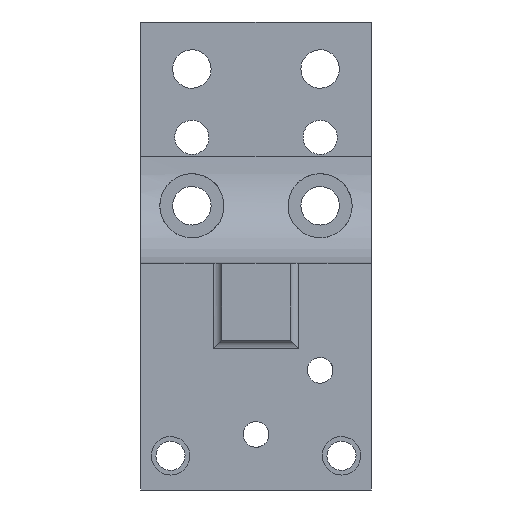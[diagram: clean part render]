
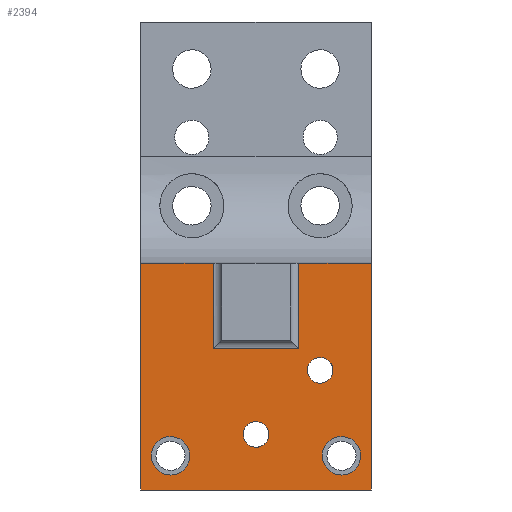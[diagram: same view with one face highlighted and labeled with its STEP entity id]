
A CAD part, front view. The second image highlights one B-rep face of the part: STEP entity #2394.
In plain terms, the highlighted planar face has unit normal (0, -1, 0).
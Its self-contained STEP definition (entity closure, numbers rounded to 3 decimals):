
#1119=CARTESIAN_POINT('Vertex',(16.051,-18.,-17.843)) ;
#1122=CARTESIAN_POINT('Axis2P3D Location',(20.,-18.,-20.)) ;
#1126=CARTESIAN_POINT('Vertex',(23.949,-18.,-22.157)) ;
#1141=CARTESIAN_POINT('Axis2P3D Location',(20.,-18.,-20.)) ;
#1326=CARTESIAN_POINT('Vertex',(-2.633,-18.,-13.562)) ;
#1329=CARTESIAN_POINT('Axis2P3D Location',(0.,-18.,-15.)) ;
#1333=CARTESIAN_POINT('Vertex',(2.633,-18.,-16.438)) ;
#1367=CARTESIAN_POINT('Axis2P3D Location',(0.,-18.,-15.)) ;
#1407=CARTESIAN_POINT('Vertex',(-23.949,-18.,-17.843)) ;
#1410=CARTESIAN_POINT('Axis2P3D Location',(-20.,-18.,-20.)) ;
#1414=CARTESIAN_POINT('Vertex',(-16.051,-18.,-22.157)) ;
#1436=CARTESIAN_POINT('Axis2P3D Location',(-20.,-18.,-20.)) ;
#1670=CARTESIAN_POINT('Vertex',(12.367,-18.,1.438)) ;
#1673=CARTESIAN_POINT('Axis2P3D Location',(15.,-18.,0.)) ;
#1677=CARTESIAN_POINT('Vertex',(17.633,-18.,-1.438)) ;
#1692=CARTESIAN_POINT('Axis2P3D Location',(15.,-18.,0.)) ;
#1920=CARTESIAN_POINT('Vertex',(27.,-18.,-28.)) ;
#1923=CARTESIAN_POINT('Line Origine',(0.,-18.,-28.)) ;
#1927=CARTESIAN_POINT('Vertex',(-27.,-18.,-28.)) ;
#2230=CARTESIAN_POINT('Vertex',(10.,-18.,5.)) ;
#2233=CARTESIAN_POINT('Line Origine',(10.,-18.,-1.5)) ;
#2237=CARTESIAN_POINT('Vertex',(10.,-18.,25.)) ;
#2264=CARTESIAN_POINT('Line Origine',(18.5,-18.,25.)) ;
#2268=CARTESIAN_POINT('Vertex',(27.,-18.,25.)) ;
#2280=CARTESIAN_POINT('Vertex',(-27.,-18.,25.)) ;
#2283=CARTESIAN_POINT('Line Origine',(-18.5,-18.,25.)) ;
#2287=CARTESIAN_POINT('Vertex',(-10.,-18.,25.)) ;
#2341=CARTESIAN_POINT('Axis2P3D Location',(0.,-18.,-28.)) ;
#2346=CARTESIAN_POINT('Line Origine',(0.,-18.,5.)) ;
#2350=CARTESIAN_POINT('Vertex',(-10.,-18.,5.)) ;
#2353=CARTESIAN_POINT('Line Origine',(-10.,-18.,15.)) ;
#2358=CARTESIAN_POINT('Line Origine',(-27.,-18.,-1.5)) ;
#2363=CARTESIAN_POINT('Line Origine',(27.,-18.,-1.5)) ;
#1123=DIRECTION('Axis2P3D Direction',(-0.,1.,0.)) ;
#1142=DIRECTION('Axis2P3D Direction',(-0.,1.,0.)) ;
#1330=DIRECTION('Axis2P3D Direction',(-0.,1.,0.)) ;
#1368=DIRECTION('Axis2P3D Direction',(-0.,1.,0.)) ;
#1411=DIRECTION('Axis2P3D Direction',(-0.,1.,0.)) ;
#1437=DIRECTION('Axis2P3D Direction',(-0.,1.,0.)) ;
#1674=DIRECTION('Axis2P3D Direction',(-0.,1.,0.)) ;
#1693=DIRECTION('Axis2P3D Direction',(-0.,1.,0.)) ;
#1924=DIRECTION('Vector Direction',(1.,0.,0.)) ;
#2234=DIRECTION('Vector Direction',(0.,0.,-1.)) ;
#2265=DIRECTION('Vector Direction',(-1.,0.,0.)) ;
#2284=DIRECTION('Vector Direction',(-1.,0.,0.)) ;
#2342=DIRECTION('Axis2P3D Direction',(0.,1.,0.)) ;
#2343=DIRECTION('Axis2P3D XDirection',(0.,0.,1.)) ;
#2347=DIRECTION('Vector Direction',(1.,0.,0.)) ;
#2354=DIRECTION('Vector Direction',(0.,0.,1.)) ;
#2359=DIRECTION('Vector Direction',(0.,0.,-1.)) ;
#2364=DIRECTION('Vector Direction',(0.,0.,1.)) ;
#1124=AXIS2_PLACEMENT_3D('Circle Axis2P3D',#1122,#1123,$) ;
#1143=AXIS2_PLACEMENT_3D('Circle Axis2P3D',#1141,#1142,$) ;
#1331=AXIS2_PLACEMENT_3D('Circle Axis2P3D',#1329,#1330,$) ;
#1369=AXIS2_PLACEMENT_3D('Circle Axis2P3D',#1367,#1368,$) ;
#1412=AXIS2_PLACEMENT_3D('Circle Axis2P3D',#1410,#1411,$) ;
#1438=AXIS2_PLACEMENT_3D('Circle Axis2P3D',#1436,#1437,$) ;
#1675=AXIS2_PLACEMENT_3D('Circle Axis2P3D',#1673,#1674,$) ;
#1694=AXIS2_PLACEMENT_3D('Circle Axis2P3D',#1692,#1693,$) ;
#2344=AXIS2_PLACEMENT_3D('Plane Axis2P3D',#2341,#2342,#2343) ;
#2369=ORIENTED_EDGE('',*,*,#2352,.T.) ;
#2370=ORIENTED_EDGE('',*,*,#2357,.F.) ;
#2371=ORIENTED_EDGE('',*,*,#2289,.T.) ;
#2372=ORIENTED_EDGE('',*,*,#2362,.T.) ;
#2373=ORIENTED_EDGE('',*,*,#1929,.T.) ;
#2374=ORIENTED_EDGE('',*,*,#2367,.T.) ;
#2375=ORIENTED_EDGE('',*,*,#2270,.T.) ;
#2376=ORIENTED_EDGE('',*,*,#2239,.F.) ;
#2379=ORIENTED_EDGE('',*,*,#1696,.T.) ;
#2380=ORIENTED_EDGE('',*,*,#1679,.T.) ;
#2383=ORIENTED_EDGE('',*,*,#1371,.T.) ;
#2384=ORIENTED_EDGE('',*,*,#1335,.T.) ;
#2387=ORIENTED_EDGE('',*,*,#1440,.T.) ;
#2388=ORIENTED_EDGE('',*,*,#1416,.T.) ;
#2391=ORIENTED_EDGE('',*,*,#1145,.T.) ;
#2392=ORIENTED_EDGE('',*,*,#1128,.T.) ;
#2381=FACE_BOUND('',#2378,.T.) ;
#2385=FACE_BOUND('',#2382,.T.) ;
#2389=FACE_BOUND('',#2386,.T.) ;
#2393=FACE_BOUND('',#2390,.T.) ;
#1925=VECTOR('Line Direction',#1924,1.) ;
#2235=VECTOR('Line Direction',#2234,1.) ;
#2266=VECTOR('Line Direction',#2265,1.) ;
#2285=VECTOR('Line Direction',#2284,1.) ;
#2348=VECTOR('Line Direction',#2347,1.) ;
#2355=VECTOR('Line Direction',#2354,1.) ;
#2360=VECTOR('Line Direction',#2359,1.) ;
#2365=VECTOR('Line Direction',#2364,1.) ;
#2394=ADVANCED_FACE('PartBody',(#2377,#2381,#2385,#2389,#2393),#2345,.F.) ;
#1125=CIRCLE('generated circle',#1124,4.5) ;
#1144=CIRCLE('generated circle',#1143,4.5) ;
#1332=CIRCLE('generated circle',#1331,3.) ;
#1370=CIRCLE('generated circle',#1369,3.) ;
#1413=CIRCLE('generated circle',#1412,4.5) ;
#1439=CIRCLE('generated circle',#1438,4.5) ;
#1676=CIRCLE('generated circle',#1675,3.) ;
#1695=CIRCLE('generated circle',#1694,3.) ;
#1128=EDGE_CURVE('',#1127,#1120,#1125,.T.) ;
#1145=EDGE_CURVE('',#1120,#1127,#1144,.T.) ;
#1335=EDGE_CURVE('',#1334,#1327,#1332,.T.) ;
#1371=EDGE_CURVE('',#1327,#1334,#1370,.T.) ;
#1416=EDGE_CURVE('',#1415,#1408,#1413,.T.) ;
#1440=EDGE_CURVE('',#1408,#1415,#1439,.T.) ;
#1679=EDGE_CURVE('',#1678,#1671,#1676,.T.) ;
#1696=EDGE_CURVE('',#1671,#1678,#1695,.T.) ;
#1929=EDGE_CURVE('',#1928,#1921,#1926,.T.) ;
#2239=EDGE_CURVE('',#2231,#2238,#2236,.F.) ;
#2270=EDGE_CURVE('',#2269,#2238,#2267,.T.) ;
#2289=EDGE_CURVE('',#2288,#2281,#2286,.T.) ;
#2352=EDGE_CURVE('',#2231,#2351,#2349,.F.) ;
#2357=EDGE_CURVE('',#2288,#2351,#2356,.F.) ;
#2362=EDGE_CURVE('',#2281,#1928,#2361,.T.) ;
#2367=EDGE_CURVE('',#1921,#2269,#2366,.T.) ;
#2368=EDGE_LOOP('',(#2369,#2370,#2371,#2372,#2373,#2374,#2375,#2376)) ;
#2378=EDGE_LOOP('',(#2379,#2380)) ;
#2382=EDGE_LOOP('',(#2383,#2384)) ;
#2386=EDGE_LOOP('',(#2387,#2388)) ;
#2390=EDGE_LOOP('',(#2391,#2392)) ;
#2377=FACE_OUTER_BOUND('',#2368,.T.) ;
#1926=LINE('Line',#1923,#1925) ;
#2236=LINE('Line',#2233,#2235) ;
#2267=LINE('Line',#2264,#2266) ;
#2286=LINE('Line',#2283,#2285) ;
#2349=LINE('Line',#2346,#2348) ;
#2356=LINE('Line',#2353,#2355) ;
#2361=LINE('Line',#2358,#2360) ;
#2366=LINE('Line',#2363,#2365) ;
#2345=PLANE('',#2344) ;
#1120=VERTEX_POINT('',#1119) ;
#1127=VERTEX_POINT('',#1126) ;
#1327=VERTEX_POINT('',#1326) ;
#1334=VERTEX_POINT('',#1333) ;
#1408=VERTEX_POINT('',#1407) ;
#1415=VERTEX_POINT('',#1414) ;
#1671=VERTEX_POINT('',#1670) ;
#1678=VERTEX_POINT('',#1677) ;
#1921=VERTEX_POINT('',#1920) ;
#1928=VERTEX_POINT('',#1927) ;
#2231=VERTEX_POINT('',#2230) ;
#2238=VERTEX_POINT('',#2237) ;
#2269=VERTEX_POINT('',#2268) ;
#2281=VERTEX_POINT('',#2280) ;
#2288=VERTEX_POINT('',#2287) ;
#2351=VERTEX_POINT('',#2350) ;
